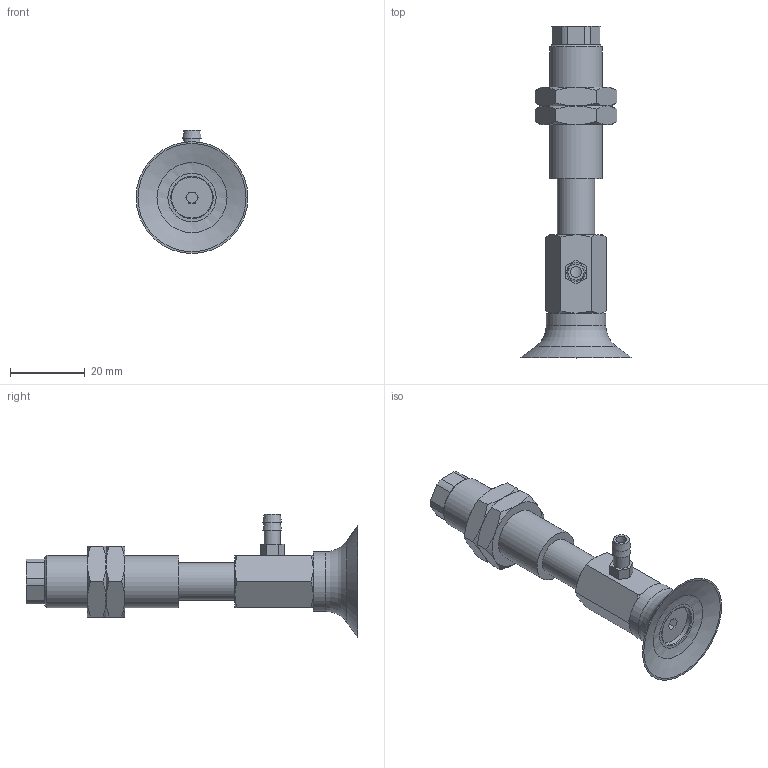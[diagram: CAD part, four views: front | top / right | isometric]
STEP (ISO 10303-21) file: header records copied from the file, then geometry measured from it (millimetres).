
FILE_DESCRIPTION(('STEP AP203'),'1');
FILE_NAME('-T.stp','2025-04-09T07:18:23',(' '),(' '),'Spatial InterOp 3D',' ',' ');
FILE_SCHEMA(('CONFIG_CONTROL_DESIGN'));
Length unit declared in the file: millimetre
Products named in the file (8): BNABPFYS-30-15-※-T; TN-PF-30-M6-NAPF; CONNECTOR-30-15; Nut-30-15-s; NAPFTS-30-15-FBODY; NAPFTS-30-15-MBODY; BPFG-30-※; T
Assembly tree (8 placements, depth 2):
  BNABPFYS-30-15-※-T
    TN-PF-30-M6-NAPF
    CONNECTOR-30-15
    Nut-30-15-s  x2
    NAPFTS-30-15-FBODY
    NAPFTS-30-15-MBODY
    BPFG-30-※
    T
Bounding box: 30 x 89 x 33 mm (x, y, z)
Volume: 14886.8 mm3; surface area: 11846.1 mm2
Topology: 8 solids, 8 shells, 163 faces, 339 edges, 206 vertices
Faces by surface type: plane 78, cone 54, cylinder 25, torus 5, bspline 1
Full cylindrical faces by diameter (mm): 3 x3, 4.134 x2, 4.3 x1, 4.917 x1, 5 x2, 6 x2, 10 x2, 11 x2, 12.917 x2, 14 x1, 16 x1
Entity records: 4209 total; most frequent: CARTESIAN_POINT 995, DIRECTION 596, ORIENTED_EDGE 500, EDGE_CURVE 250, AXIS2_PLACEMENT_3D 249, EDGE_LOOP 206, VERTEX_POINT 176, FACE_OUTER_BOUND 164
